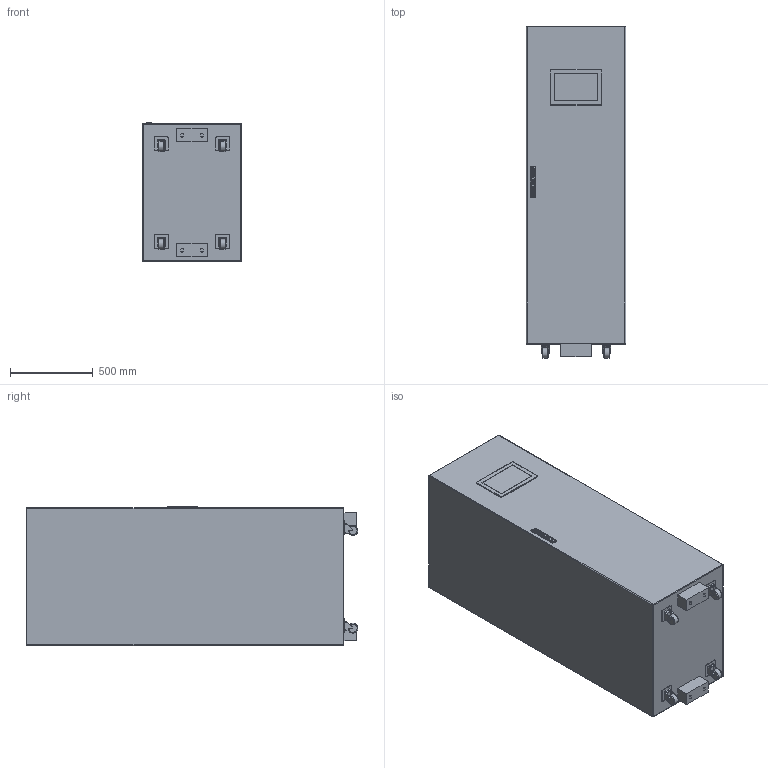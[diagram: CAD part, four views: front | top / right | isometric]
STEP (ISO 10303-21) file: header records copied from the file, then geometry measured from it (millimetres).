
FILE_DESCRIPTION(/* description */ (''),/* implementation_level */ '2;1');
FILE_NAME(/* name */ 'VEDAUPS P300.stp',/* time_stamp */ '2026-02-21T11:47:50+04:00',/* author */ ('Александр (огранич)'),/* organization */ (''),/* preprocessor_version */ 'ST-DEVELOPER v19.2',/* originating_system */ 'Autodesk Inventor 2024',/* authorisation */ '');
FILE_SCHEMA (('AUTOMOTIVE_DESIGN { 1 0 10303 214 3 1 1 }'));
Length unit declared in the file: millimetre
Products named in the file (10): VEDAUPS P100; Корпус; Колесо; Дисплей; RAMBLOCK montata modificated_Default; inserto chiave per maniglia RAM BLOCK_AC00C389; Sealing ring; Ingranaggio per cariglione modificated_AC00C388; basetta esterna_AC00C506; maniglia RAM BLOCK modificated_AC00C505
Assembly tree (12 placements, depth 3):
  VEDAUPS P100
    Корпус
    Колесо  x4
    Дисплей
    RAMBLOCK montata modificated_Default
      inserto chiave per maniglia RAM BLOCK_AC00C389
      Sealing ring
      Ingranaggio per cariglione modificated_AC00C388
      basetta esterna_AC00C506
      maniglia RAM BLOCK modificated_AC00C505
Bounding box: 600 x 2000 x 839 mm (x, y, z)
Volume: 957283044.1 mm3; surface area: 6858560.1 mm2
Topology: 11 solids, 11 shells, 595 faces, 1566 edges, 1022 vertices
Faces by surface type: plane 356, cylinder 213, torus 11, sphere 8, bspline 6, cone 1
Full cylindrical faces by diameter (mm): 3 x1, 3.2 x1, 3.4 x3, 4.2 x4, 5 x1, 8.2 x3, 10 x5, 12.8 x1, 13.8 x2, 14.1 x1, 15.9 x1, 16.2 x1, 60 x4
Entity records: 14804 total; most frequent: CARTESIAN_POINT 2685, DIRECTION 2561, ORIENTED_EDGE 2410, EDGE_CURVE 1205, AXIS2_PLACEMENT_3D 886, LINE 789, VECTOR 789, VERTEX_POINT 788
